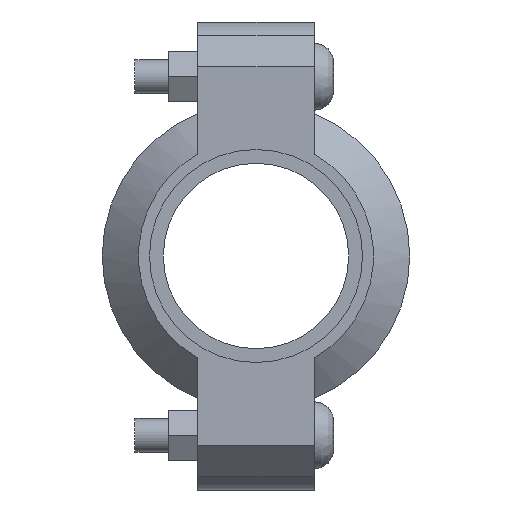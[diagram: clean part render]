
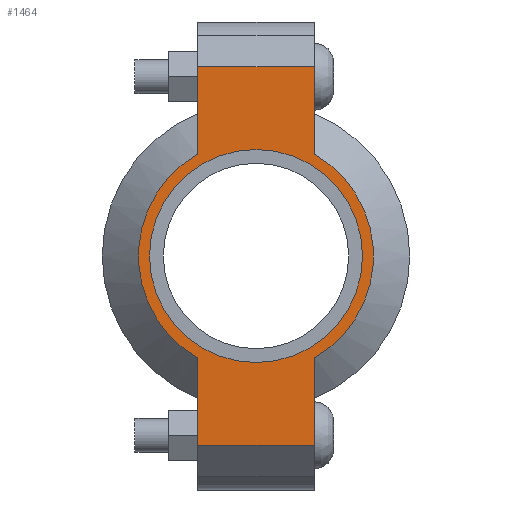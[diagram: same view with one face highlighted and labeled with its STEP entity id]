
A CAD part, left-side view. The second image highlights one B-rep face of the part: STEP entity #1464.
In plain terms, the highlighted planar face has unit normal (-1, 0, 0) as drawn and (0, 0, 1) by its records, which use the part's own axes.
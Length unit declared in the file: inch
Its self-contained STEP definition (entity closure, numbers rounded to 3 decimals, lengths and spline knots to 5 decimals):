
#144=LINE('',#2521,#235);
#152=LINE('',#2557,#243);
#159=LINE('',#2578,#250);
#168=LINE('',#2610,#259);
#169=LINE('',#2614,#260);
#170=LINE('',#2616,#261);
#235=VECTOR('',#2039,0.3937);
#243=VECTOR('',#2055,0.3937);
#250=VECTOR('',#2074,0.3937);
#259=VECTOR('',#2099,0.3937);
#260=VECTOR('',#2104,0.3937);
#261=VECTOR('',#2105,0.3937);
#313=FACE_BOUND('',#473,.T.);
#377=FACE_OUTER_BOUND('',#472,.T.);
#472=EDGE_LOOP('',(#1199,#1200,#1201,#1202,#1203,#1204,#1205,#1206));
#473=EDGE_LOOP('',(#1207));
#570=CIRCLE('',#1707,1.31);
#571=CIRCLE('',#1708,1.31);
#572=CIRCLE('',#1709,1.1875);
#675=VERTEX_POINT('',#2518);
#676=VERTEX_POINT('',#2520);
#687=VERTEX_POINT('',#2552);
#688=VERTEX_POINT('',#2556);
#695=VERTEX_POINT('',#2575);
#696=VERTEX_POINT('',#2577);
#706=VERTEX_POINT('',#2613);
#707=VERTEX_POINT('',#2615);
#708=VERTEX_POINT('',#2618);
#839=EDGE_CURVE('',#676,#675,#144,.T.);
#853=EDGE_CURVE('',#688,#687,#152,.T.);
#863=EDGE_CURVE('',#696,#695,#159,.T.);
#878=EDGE_CURVE('',#688,#675,#168,.T.);
#879=EDGE_CURVE('',#687,#696,#570,.T.);
#880=EDGE_CURVE('',#706,#695,#169,.T.);
#881=EDGE_CURVE('',#706,#707,#170,.T.);
#882=EDGE_CURVE('',#707,#676,#571,.T.);
#883=EDGE_CURVE('',#708,#708,#572,.T.);
#1199=ORIENTED_EDGE('',*,*,#878,.F.);
#1200=ORIENTED_EDGE('',*,*,#853,.T.);
#1201=ORIENTED_EDGE('',*,*,#879,.T.);
#1202=ORIENTED_EDGE('',*,*,#863,.T.);
#1203=ORIENTED_EDGE('',*,*,#880,.F.);
#1204=ORIENTED_EDGE('',*,*,#881,.T.);
#1205=ORIENTED_EDGE('',*,*,#882,.T.);
#1206=ORIENTED_EDGE('',*,*,#839,.T.);
#1207=ORIENTED_EDGE('',*,*,#883,.T.);
#1318=PLANE('',#1706);
#1464=ADVANCED_FACE('',(#377,#313),#1318,.T.);
#1706=AXIS2_PLACEMENT_3D('',#2611,#2100,#2101);
#1707=AXIS2_PLACEMENT_3D('',#2612,#2102,#2103);
#1708=AXIS2_PLACEMENT_3D('',#2617,#2106,#2107);
#1709=AXIS2_PLACEMENT_3D('',#2619,#2108,#2109);
#2039=DIRECTION('',(-1.,0.,0.));
#2055=DIRECTION('',(1.,0.,0.));
#2074=DIRECTION('',(1.,0.,0.));
#2099=DIRECTION('',(0.,1.,0.));
#2100=DIRECTION('center_axis',(0.,0.,1.));
#2101=DIRECTION('ref_axis',(1.,0.,0.));
#2102=DIRECTION('center_axis',(0.,0.,1.));
#2103=DIRECTION('ref_axis',(-1.,0.,0.));
#2104=DIRECTION('',(0.,-1.,0.));
#2105=DIRECTION('',(-1.,0.,0.));
#2106=DIRECTION('center_axis',(0.,0.,1.));
#2107=DIRECTION('ref_axis',(-1.,0.,0.));
#2108=DIRECTION('center_axis',(0.,0.,-1.));
#2109=DIRECTION('ref_axis',(-1.,0.,0.));
#2518=CARTESIAN_POINT('',(-2.11,0.65,0.94));
#2520=CARTESIAN_POINT('',(-1.13737,0.65,0.94));
#2521=CARTESIAN_POINT('',(-2.61,0.65,0.94));
#2552=CARTESIAN_POINT('',(-1.13737,-0.65,0.94));
#2556=CARTESIAN_POINT('',(-2.11,-0.65,0.94));
#2557=CARTESIAN_POINT('',(2.61,-0.65,0.94));
#2575=CARTESIAN_POINT('',(2.11,-0.65,0.94));
#2577=CARTESIAN_POINT('',(1.13737,-0.65,0.94));
#2578=CARTESIAN_POINT('',(2.61,-0.65,0.94));
#2610=CARTESIAN_POINT('',(-2.11,0.325,0.94));
#2611=CARTESIAN_POINT('Origin',(0.,0.,0.94));
#2612=CARTESIAN_POINT('Origin',(0.,0.,0.94));
#2613=CARTESIAN_POINT('',(2.11,0.65,0.94));
#2614=CARTESIAN_POINT('',(2.11,-0.325,0.94));
#2615=CARTESIAN_POINT('',(1.13737,0.65,0.94));
#2616=CARTESIAN_POINT('',(-2.61,0.65,0.94));
#2617=CARTESIAN_POINT('Origin',(0.,0.,0.94));
#2618=CARTESIAN_POINT('',(1.1875,0.,0.94));
#2619=CARTESIAN_POINT('Origin',(0.,0.,0.94));
